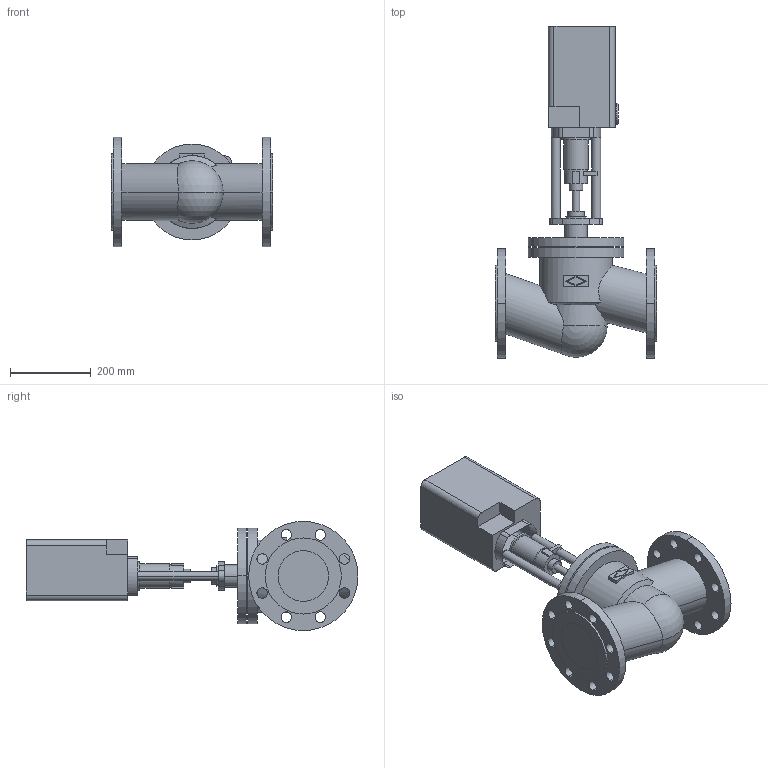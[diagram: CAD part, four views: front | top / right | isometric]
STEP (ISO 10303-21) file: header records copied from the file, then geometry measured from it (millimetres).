
FILE_DESCRIPTION(('OneSpaceDesigner STEP Export'),'2;1');
FILE_NAME('c000003121.stp','2007-01-16T10:33:35',(''),(''),'OneSpace Designer STEP processor for AP214 (Solid Model)','OneSpace Designer 14.00B 27-May-2006 (C) CoCreate Software GmbH','');
FILE_SCHEMA(('AUTOMOTIVE_DESIGN { 1 0 10303 214 1 1 1 1 }'));
Length unit declared in the file: millimetre
Products named in the file (2): 1; 2
Bounding box: 400 x 820 x 270 mm (x, y, z)
Volume: 19811824.2 mm3; surface area: 879892.4 mm2
Topology: 2 solids, 2 shells, 172 faces, 431 edges, 284 vertices
Faces by surface type: cylinder 94, plane 72, sphere 2, cone 2, torus 2
Entity records: 4960 total; most frequent: CARTESIAN_POINT 1066, ORIENTED_EDGE 858, DIRECTION 714, EDGE_CURVE 429, VERTEX_POINT 284, AXIS2_PLACEMENT_3D 253, EDGE_LOOP 227, VECTOR 208
